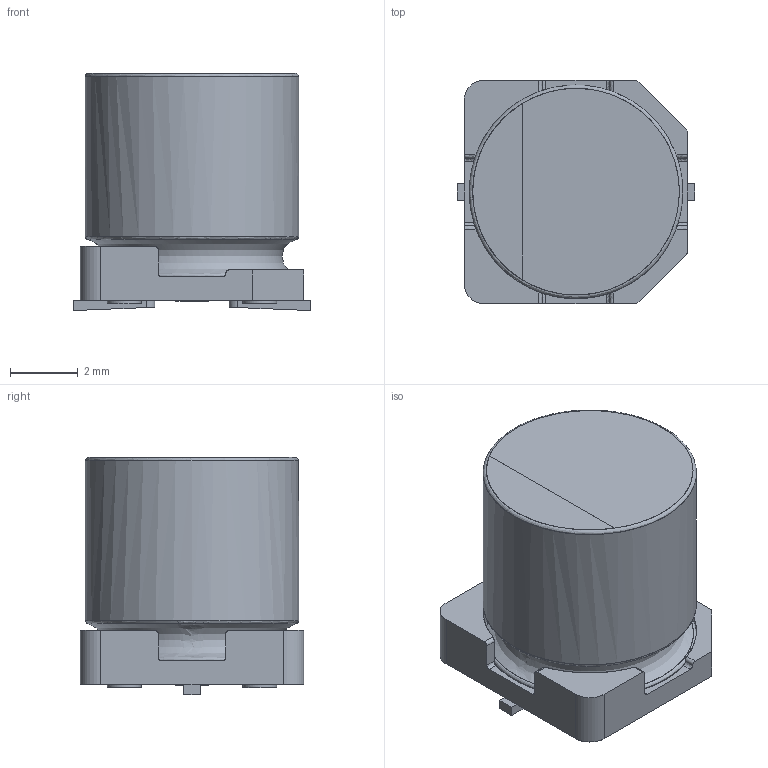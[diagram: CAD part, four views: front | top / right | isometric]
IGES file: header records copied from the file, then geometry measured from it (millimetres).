
Start section: JAMA-IS VERSION  1.0
Bounding box: 7 x 6.6 x 7 mm (x, y, z)
Surface area: 323.1 mm2 (no closed solid volume)
Topology: 0 solids, 0 shells, 74 faces, 994 edges, 976 vertices
Faces by surface type: bspline 74
